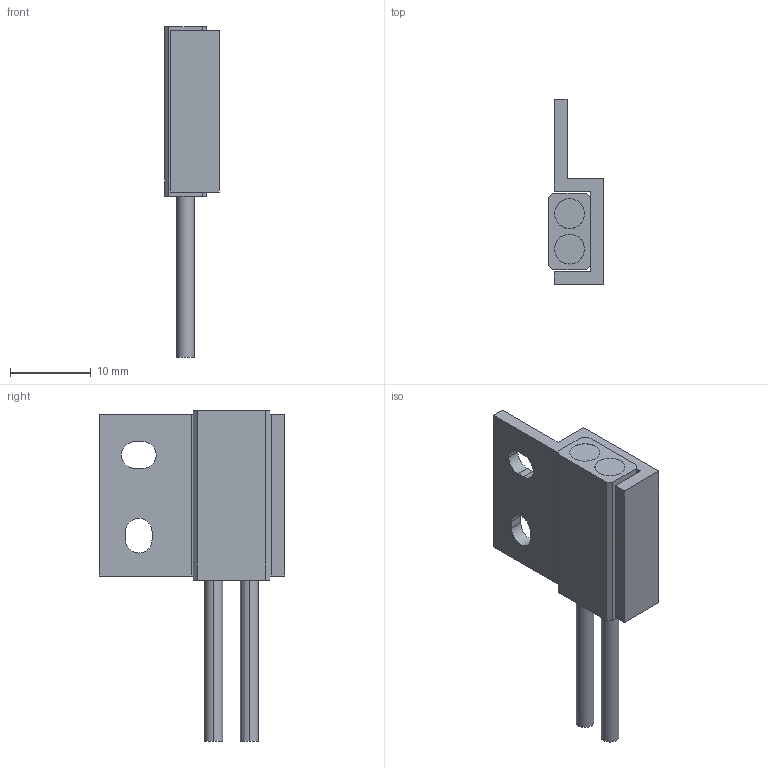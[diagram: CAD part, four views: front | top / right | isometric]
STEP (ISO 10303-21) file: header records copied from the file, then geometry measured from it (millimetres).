
FILE_DESCRIPTION (( 'STEP AP214' ), '1' );
FILE_NAME ('2708.STEP', '2017-05-02T15:13:30', ( 'EMI' ), ( 'Microsoft' ), 'SwSTEP 2.0', 'SolidWorks 2016', '' );
FILE_SCHEMA (( 'AUTOMOTIVE_DESIGN' ));
Length unit declared in the file: millimetre
Products named in the file (3): 2708; 2708_Part B - Mounting Bracket; 2708_2708
Assembly tree (2 placements, depth 2):
  2708
    2708_2708
    2708_Part B - Mounting Bracket
Bounding box: 6.8 x 23 x 41 mm (x, y, z)
Volume: 2148.8 mm3; surface area: 2504.4 mm2
Topology: 2 solids, 2 shells, 53 faces, 129 edges, 86 vertices
Faces by surface type: plane 32, cylinder 21
Entity records: 2043 total; most frequent: DIRECTION 287, CARTESIAN_POINT 273, ORIENTED_EDGE 258, EDGE_CURVE 129, AXIS2_PLACEMENT_3D 100, VECTOR 87, LINE 87, VERTEX_POINT 86
